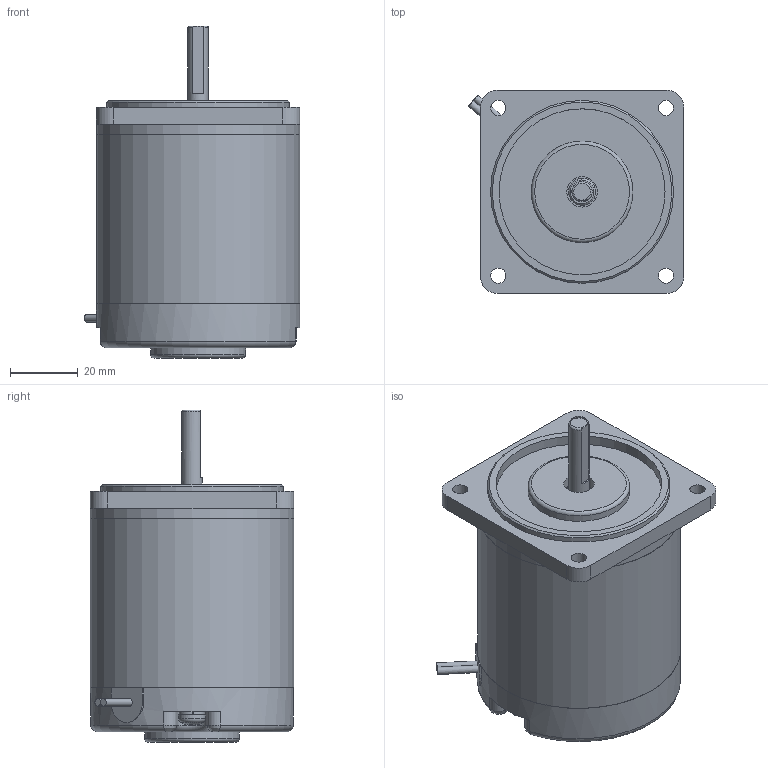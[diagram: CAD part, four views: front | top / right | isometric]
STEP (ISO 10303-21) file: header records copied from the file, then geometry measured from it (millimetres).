
FILE_DESCRIPTION((''),'2;1');
FILE_NAME('D:\연구개발부2팀 1파트\10_진행업무\3D_60각\S6D06-ㅁD.stp','2013-06-05T15:33:25',('song'),(''),'Autodesk Inventor 2011','Autodesk Inventor 2011','');
FILE_SCHEMA(('AUTOMOTIVE_DESIGN { 1 0 10303 214 1 1 1 1 }'));
Length unit declared in the file: millimetre
Products named in the file (9): S6D15-12; FRONT HOUSING; REAR HOUSING ASS'Y; REAR HOUSING; cord bush; NF EN ISO 7045 - Z M4 x 40 - 4.8 - Z; AS 1968 4; PIPE HOUSING; shaft_D-CUTt
Assembly tree (9 placements, depth 2):
  S6D15-12
    FRONT HOUSING
    PIPE HOUSING
    shaft_D-CUTt
  REAR HOUSING ASS'Y
    REAR HOUSING
    cord bush
    NF EN ISO 7045 - Z M4 x 40 - 4.8 - Z  x2
    AS 1968 4  x2
Bounding box: 63.59 x 60 x 98 mm (x, y, z)
Volume: 200163.8 mm3; surface area: 36717.7 mm2
Topology: 9 solids, 9 shells, 186 faces, 428 edges, 270 vertices
Faces by surface type: plane 84, cylinder 43, cone 36, torus 17, bspline 4, sphere 2
Full cylindrical faces by diameter (mm): 2.2 x2, 3.621 x2, 4 x2, 4.5 x6, 6 x1, 8 x1, 9 x1, 28 x1, 30 x1, 49 x1, 54 x1, 55 x1, 60 x3
Entity records: 4476 total; most frequent: CARTESIAN_POINT 1188, DIRECTION 684, ORIENTED_EDGE 558, AXIS2_PLACEMENT_3D 300, EDGE_CURVE 279, VERTEX_POINT 192, EDGE_LOOP 190, FACE_OUTER_BOUND 138
